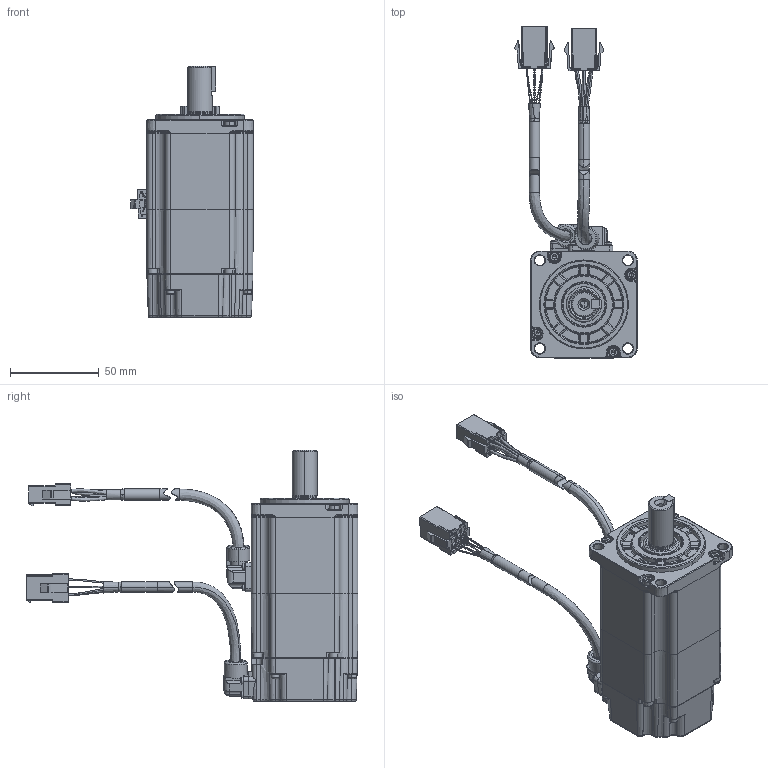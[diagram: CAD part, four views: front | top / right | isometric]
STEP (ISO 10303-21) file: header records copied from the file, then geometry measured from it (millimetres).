
FILE_DESCRIPTION (( 'STEP AP203' ), '1' );
FILE_NAME ('4030602-↓↓↓↓_60萇儂_DM1M-02A60[]8E.STEP', '2020-05-19T08:02:26', ( '' ), ( '' ), 'SwSTEP 2.0', 'SolidWorks 2018', '' );
FILE_SCHEMA (( 'CONFIG_CONTROL_DESIGN' ));
Products named in the file (1): 4030602-↓↓↓↓_60萇儂_DM1M-02A60[]8E
Bounding box: 68.88 x 186.5 x 141.3 mm (x, y, z)
Surface area: 50026.4 mm2 (no closed solid volume)
Topology: 0 solids, 67 shells, 1472 faces, 4863 edges, 3310 vertices
Faces by surface type: plane 641, cylinder 337, bspline 167, cone 163, torus 132, sphere 32
Entity records: 59658 total; most frequent: CARTESIAN_POINT 18923, DIRECTION 8354, ORIENTED_EDGE 7867, EDGE_CURVE 4821, VERTEX_POINT 3310, AXIS2_PLACEMENT_3D 2812, VECTOR 2730, LINE 2730
